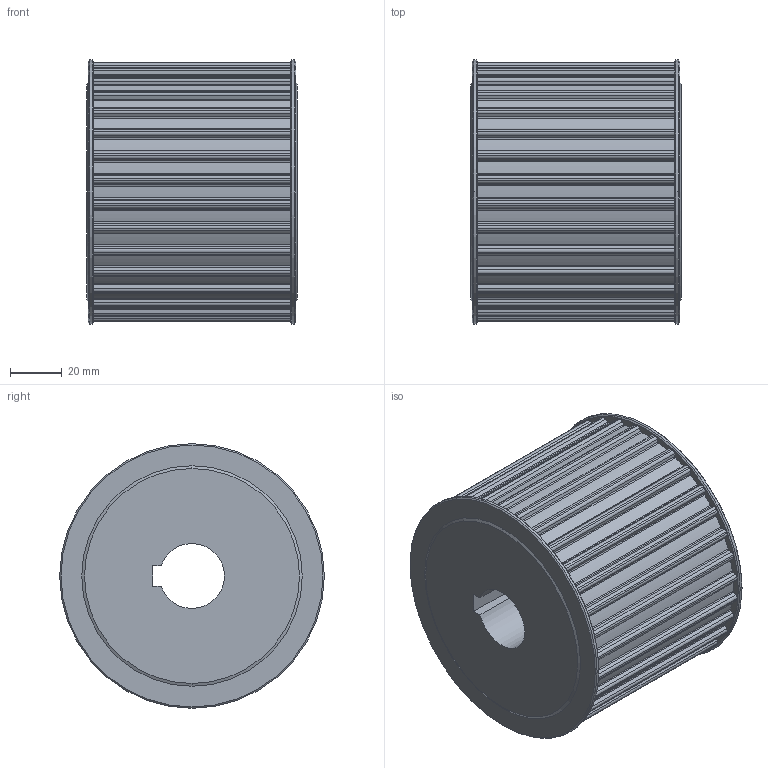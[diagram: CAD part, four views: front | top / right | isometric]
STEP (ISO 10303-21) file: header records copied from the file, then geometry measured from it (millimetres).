
FILE_DESCRIPTION (( 'STEP AP214' ), '1' );
FILE_NAME ('3.2030 75AT10_32D25K8_0.STEP', '2026-02-10T11:49:15', ( '' ), ( '' ), 'SwSTEP 2.0', 'SolidWorks 2025', '' );
FILE_SCHEMA (( 'AUTOMOTIVE_DESIGN' ));
Length unit declared in the file: millimetre
Products named in the file (1): 3.2030 75AT10_32D25K8_0
Bounding box: 81 x 102 x 102 mm (x, y, z)
Volume: 555933.5 mm3; surface area: 55093.9 mm2
Topology: 1 solids, 1 shells, 482 faces, 1354 edges, 900 vertices
Faces by surface type: cylinder 205, plane 181, bspline 84, cone 12
Entity records: 20797 total; most frequent: CARTESIAN_POINT 8511, ORIENTED_EDGE 2708, DIRECTION 2388, EDGE_CURVE 1354, VERTEX_POINT 900, AXIS2_PLACEMENT_3D 817, LINE 754, VECTOR 754
